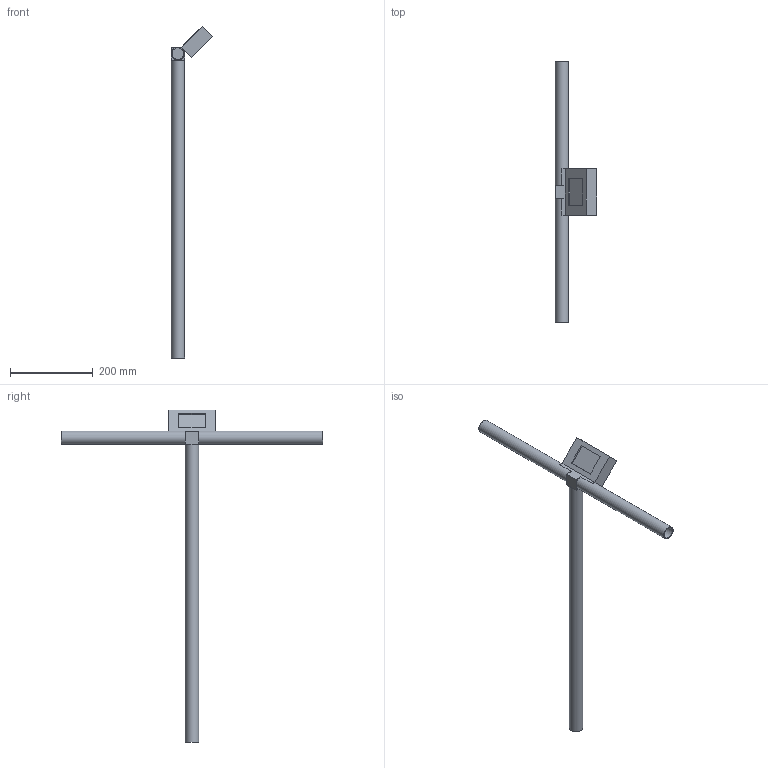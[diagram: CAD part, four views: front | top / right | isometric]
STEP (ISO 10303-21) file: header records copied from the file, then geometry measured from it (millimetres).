
FILE_DESCRIPTION(/* description */ ('STEP AP242','CAx-IF Rec.Pracs.---Representation and Presentation of Product Manufacturing Information (PMI)---4.0---2014-10-13','CAx-IF Rec.Pracs.---3D Tessellated Geometry---0.4---2014-09-14','2;1'),/* implementation_level */ '2;1');
FILE_NAME(/* name */ 'Assembly 1 - Part 1 (3)',/* time_stamp */ '2025-05-18T07:24:53Z',/* author */ (''),/* organization */ (''),/* preprocessor_version */ 'ST-DEVELOPER v20',/* originating_system */ 'ONSHAPE BY PTC INC, 1.198',/* authorisation */ ' ');
FILE_SCHEMA (('AP242_MANAGED_MODEL_BASED_3D_ENGINEERING_MIM_LF { 1 0 10303 442 1 1 4 }'));
Length unit declared in the file: metre
Products named in the file (1): Part 1
Bounding box: 99.88 x 632 x 802.91 mm (x, y, z)
Volume: 553573.8 mm3; surface area: 282719.8 mm2
Topology: 1 solids, 1 shells, 38 faces, 80 edges, 49 vertices
Faces by surface type: plane 31, cylinder 7
Full cylindrical faces by diameter (mm): 12 x1, 28 x3, 32 x3
Entity records: 990 total; most frequent: DIRECTION 174, CARTESIAN_POINT 161, ORIENTED_EDGE 146, EDGE_CURVE 73, AXIS2_PLACEMENT_3D 62, LINE 50, VECTOR 50, EDGE_LOOP 50
